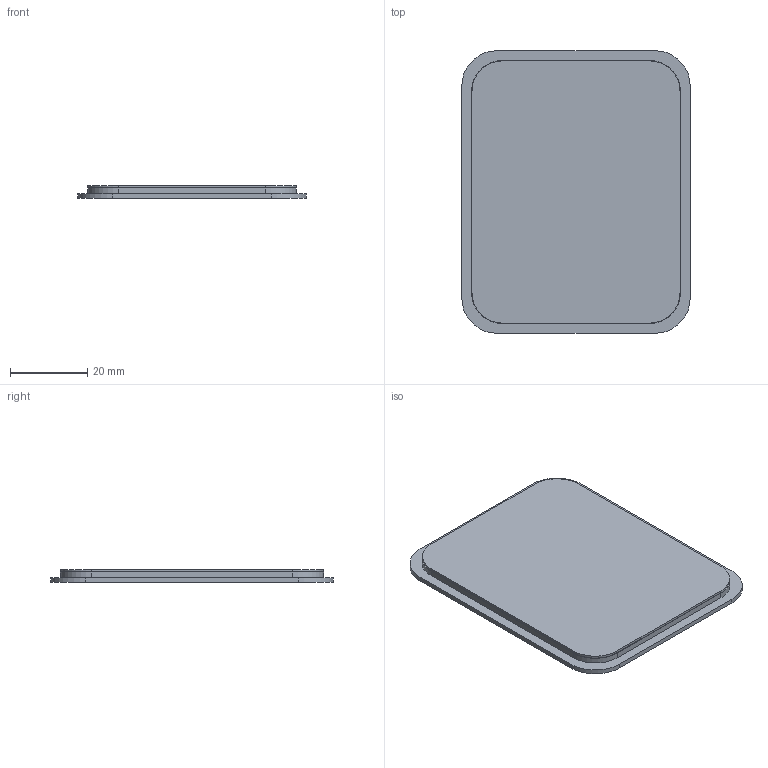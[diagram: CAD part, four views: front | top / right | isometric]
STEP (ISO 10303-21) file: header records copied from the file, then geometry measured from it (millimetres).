
FILE_DESCRIPTION(('Open CASCADE Model'),'2;1');
FILE_NAME('Open CASCADE Shape Model','2026-09-06T11:46:32',('Author'),( 'Open CASCADE'),'Open CASCADE STEP processor 7.7','Open CASCADE 7.7' ,'Unknown');
FILE_SCHEMA(('AUTOMOTIVE_DESIGN { 1 0 10303 214 1 1 1 1 }'));
Length unit declared in the file: millimetre
Products named in the file (6): C06_textile_W; backing; backing_part; cloth_ENVELOPE_ONLY; cloth_ENVELOPE_ONLY_part
Assembly tree (5 placements, depth 4):
  C06_textile_W
    C06_textile_W
      backing
        backing_part
      cloth_ENVELOPE_ONLY
        cloth_ENVELOPE_ONLY_part
Bounding box: 59 x 73 x 3.3 mm (x, y, z)
Volume: 6998.4 mm3; surface area: 15572.6 mm2
Topology: 2 solids, 2 shells, 424 faces, 1256 edges, 836 vertices
Faces by surface type: plane 216, cylinder 208
Entity records: 30944 total; most frequent: CARTESIAN_POINT 5106, DIRECTION 5038, LINE 2924, VECTOR 2924, ORIENTED_EDGE 2512, PCURVE 2512, DEFINITIONAL_REPRESENTATION 2512, EDGE_CURVE 1256
